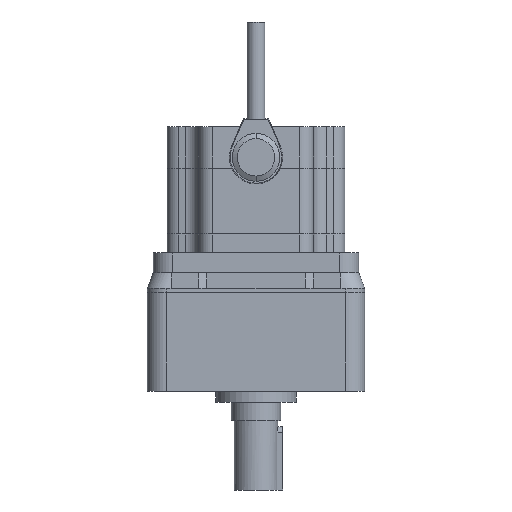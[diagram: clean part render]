
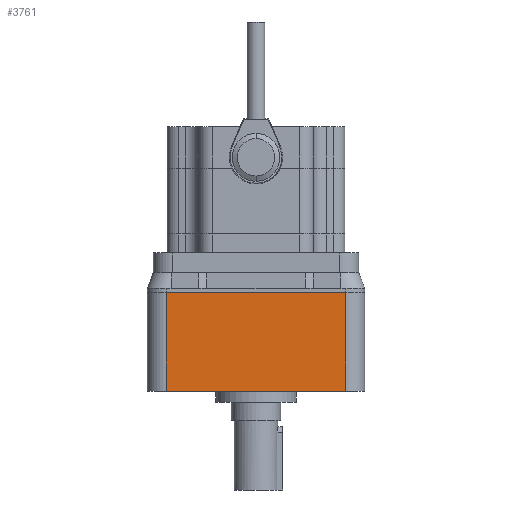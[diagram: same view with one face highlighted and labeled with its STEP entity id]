
A CAD part, front view. The second image highlights one B-rep face of the part: STEP entity #3761.
In plain terms, the highlighted planar face has unit normal (0, -1, 0).
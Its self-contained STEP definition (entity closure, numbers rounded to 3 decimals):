
#130 = FACE_OUTER_BOUND ( 'NONE', #6655, .T. ) ;
#215 = DIRECTION ( 'NONE',  ( 0., 0., 1. ) ) ;
#343 = DIRECTION ( 'NONE',  ( 0., 0., -1. ) ) ;
#783 = CARTESIAN_POINT ( 'NONE',  ( -45.5, -55., -10. ) ) ;
#867 = LINE ( 'NONE', #3327, #3181 ) ;
#935 = CARTESIAN_POINT ( 'NONE',  ( -45.5, -55., -60. ) ) ;
#1038 = ORIENTED_EDGE ( 'NONE', *, *, #5731, .T. ) ;
#1142 = CARTESIAN_POINT ( 'NONE',  ( 45.5, -55., -60. ) ) ;
#1254 = VERTEX_POINT ( 'NONE', #935 ) ;
#1323 = EDGE_CURVE ( 'NONE', #3080, #5141, #4300, .T. ) ;
#1948 = EDGE_CURVE ( 'NONE', #6253, #5141, #3859, .T. ) ;
#2720 = CARTESIAN_POINT ( 'NONE',  ( 45.5, -55., -165.563 ) ) ;
#2735 = ORIENTED_EDGE ( 'NONE', *, *, #2918, .T. ) ;
#2771 = LINE ( 'NONE', #2894, #6476 ) ;
#2894 = CARTESIAN_POINT ( 'NONE',  ( -45.5, -55., -165.563 ) ) ;
#2918 = EDGE_CURVE ( 'NONE', #1254, #6253, #867, .T. ) ;
#3080 = VERTEX_POINT ( 'NONE', #783 ) ;
#3181 = VECTOR ( 'NONE', #4513, 1000. ) ;
#3327 = CARTESIAN_POINT ( 'NONE',  ( -400000., -55., -60. ) ) ;
#3619 = AXIS2_PLACEMENT_3D ( 'NONE', #5211, #5164, #5094 ) ;
#3696 = VECTOR ( 'NONE', #5549, 1000. ) ;
#3754 = CARTESIAN_POINT ( 'NONE',  ( 45.5, -55., -10. ) ) ;
#3761 = ADVANCED_FACE ( 'NONE', ( #130 ), #7634, .T. ) ;
#3859 = LINE ( 'NONE', #2720, #6755 ) ;
#4300 = LINE ( 'NONE', #6154, #3696 ) ;
#4513 = DIRECTION ( 'NONE',  ( 1., 0., 0. ) ) ;
#5094 = DIRECTION ( 'NONE',  ( 0., 0., -1. ) ) ;
#5141 = VERTEX_POINT ( 'NONE', #3754 ) ;
#5164 = DIRECTION ( 'NONE',  ( 0., -1., 0. ) ) ;
#5211 = CARTESIAN_POINT ( 'NONE',  ( -55., -55., -165.563 ) ) ;
#5549 = DIRECTION ( 'NONE',  ( 1., 0., 0. ) ) ;
#5731 = EDGE_CURVE ( 'NONE', #3080, #1254, #2771, .T. ) ;
#6154 = CARTESIAN_POINT ( 'NONE',  ( -55., -55., -10. ) ) ;
#6253 = VERTEX_POINT ( 'NONE', #1142 ) ;
#6476 = VECTOR ( 'NONE', #343, 1000. ) ;
#6534 = ORIENTED_EDGE ( 'NONE', *, *, #1948, .T. ) ;
#6655 = EDGE_LOOP ( 'NONE', ( #6769, #1038, #2735, #6534 ) ) ;
#6755 = VECTOR ( 'NONE', #215, 1000. ) ;
#6769 = ORIENTED_EDGE ( 'NONE', *, *, #1323, .F. ) ;
#7634 = PLANE ( 'NONE',  #3619 ) ;
